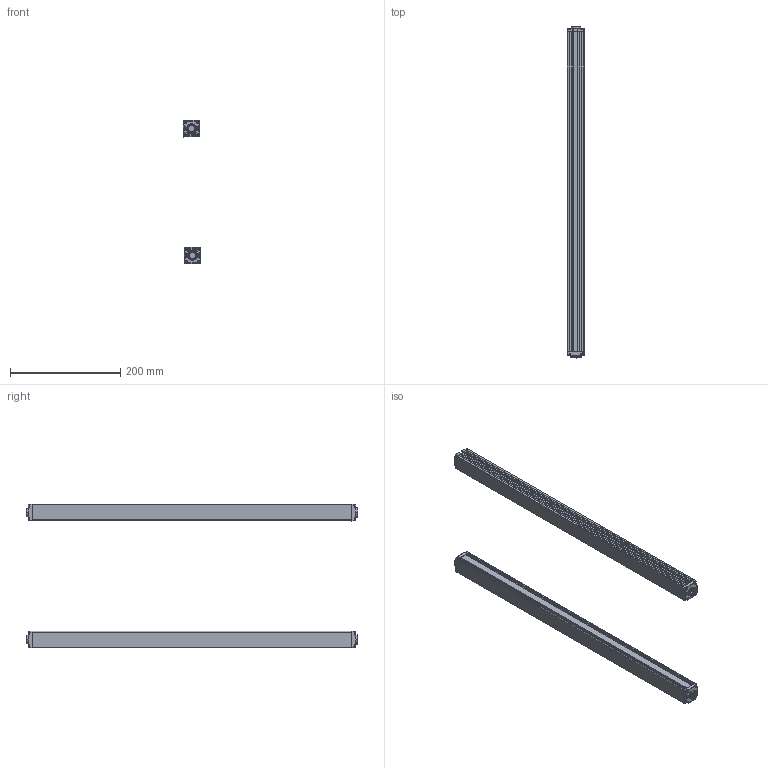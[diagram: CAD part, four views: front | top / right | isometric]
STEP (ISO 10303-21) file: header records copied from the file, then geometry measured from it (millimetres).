
FILE_DESCRIPTION (( 'STEP AP203' ), '1' );
FILE_NAME ('ZDA5610-580.STEP', '2022-08-30T03:54:32', ( 'Windows 蚚誧' ), ( 'Organization' ), 'SwSTEP 2.0', 'SolidWorks 2020', '' );
FILE_SCHEMA (( 'CONFIG_CONTROL_DESIGN' ));
Length unit declared in the file: millimetre
Products named in the file (5): 錨璃10; ZDA5610-580; 錨璃1; 錨璃8; 錨璃8 - 萵掛 (2)
Assembly tree (8 placements, depth 2):
  ZDA5610-580
    錨璃1  x2
    錨璃8  x2
    錨璃8 - 萵掛 (2)  x2
    錨璃10  x2
Bounding box: 32.36 x 601.4 x 260.35 mm (x, y, z)
Volume: 372998.2 mm3; surface area: 395899.4 mm2
Topology: 8 solids, 8 shells, 1032 faces, 2690 edges, 1668 vertices
Faces by surface type: plane 464, cylinder 310, cone 120, bspline 58, torus 48, sphere 32
Entity records: 17901 total; most frequent: CARTESIAN_POINT 4731, ORIENTED_EDGE 2666, DIRECTION 2616, EDGE_CURVE 1333, AXIS2_PLACEMENT_3D 894, VERTEX_POINT 834, LINE 828, VECTOR 828
